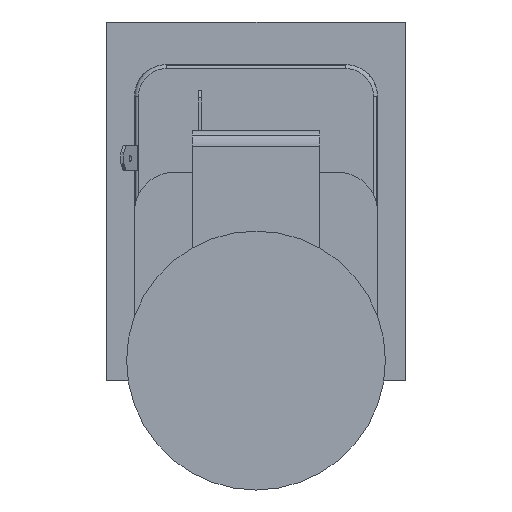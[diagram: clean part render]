
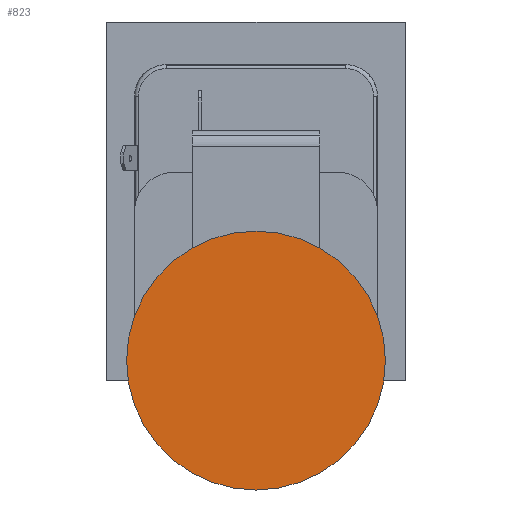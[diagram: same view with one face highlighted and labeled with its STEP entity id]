
A CAD part, front view. The second image highlights one B-rep face of the part: STEP entity #823.
In plain terms, the highlighted planar face has unit normal (0, -1, 0).
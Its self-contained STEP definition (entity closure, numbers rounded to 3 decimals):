
#823=ADVANCED_FACE('',(#1668),#1669,.T.);
#1668=FACE_OUTER_BOUND('',#2685,.T.);
#1669=PLANE('',#2686);
#2685=EDGE_LOOP('',(#4388,#4389));
#2686=AXIS2_PLACEMENT_3D('',#4390,#4391,#4392);
#4388=ORIENTED_EDGE('',*,*,#5599,.F.);
#4389=ORIENTED_EDGE('',*,*,#6236,.F.);
#4390=CARTESIAN_POINT('',(37.5,-95.304,5.0));
#4391=DIRECTION('',(0.0,-1.0,0.));
#4392=DIRECTION('',(1.0,0.0,0.0));
#5599=EDGE_CURVE('',#6563,#6565,#6566,.T.);
#6236=EDGE_CURVE('',#6565,#6563,#7567,.T.);
#6563=VERTEX_POINT('',#7939);
#6565=VERTEX_POINT('',#7942);
#6566=CIRCLE('',#7943,32.5);
#7567=CIRCLE('',#9209,32.5);
#7939=CARTESIAN_POINT('',(70.0,-95.304,5.0));
#7942=CARTESIAN_POINT('',(5.0,-95.304,5.));
#7943=AXIS2_PLACEMENT_3D('',#9650,#9651,#9652);
#9209=AXIS2_PLACEMENT_3D('',#10575,#10576,#10577);
#9650=CARTESIAN_POINT('',(37.5,-95.304,5.0));
#9651=DIRECTION('',(0.0,1.0,0.));
#9652=DIRECTION('',(1.0,0.0,0.0));
#10575=CARTESIAN_POINT('',(37.5,-95.304,5.0));
#10576=DIRECTION('',(0.0,1.0,0.));
#10577=DIRECTION('',(1.0,0.0,0.0));
